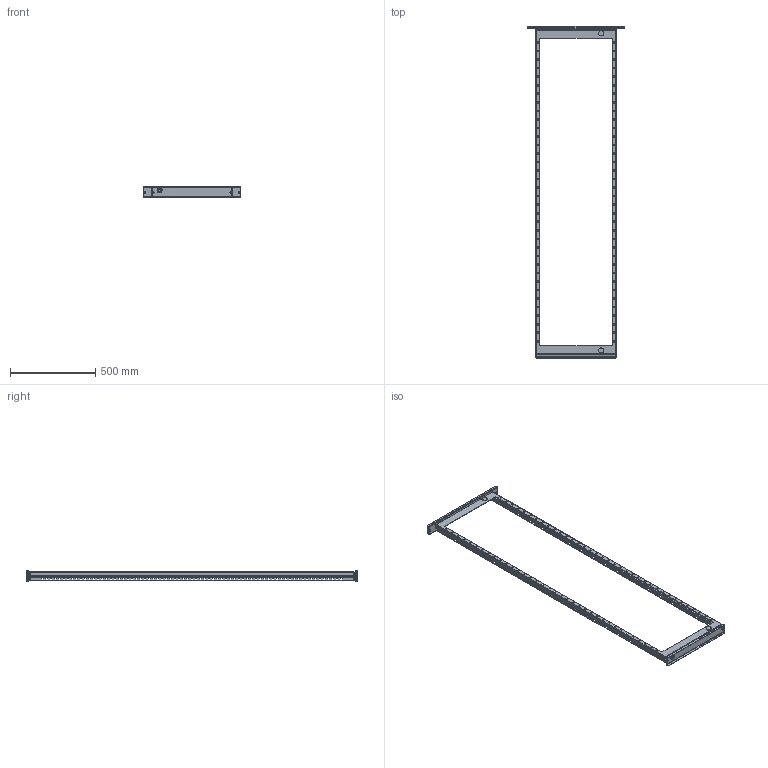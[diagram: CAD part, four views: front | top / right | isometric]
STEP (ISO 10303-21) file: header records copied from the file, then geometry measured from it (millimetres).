
FILE_DESCRIPTION (( 'STEP AP203' ), '1' );
FILE_NAME ('MC 200.60 R Ðàìà ìîäóëüíàÿ ïîâîðîòíàÿ.STEP', '2013-01-10T15:13:35', ( 'System' ), ( '' ), 'SwSTEP 2.0', 'SolidWorks 2012', '' );
FILE_SCHEMA (( 'CONFIG_CONTROL_DESIGN' ));
Length unit declared in the file: millimetre
Products named in the file (4): MC 60 R 00.01 Áàëêà âåðõíÿÿ_MC 60 R; MC 180.60 R Ðàìà ìîäóëüíàÿ_MC 200.60 R; MC 60 R 00.001 Áàëêà íèæíÿÿ_MC 60 R; MC 200.60 R Ðàìà ìîäóëüíàÿ ïîâîðîòíàÿ
Assembly tree (3 placements, depth 2):
  MC 200.60 R Ðàìà ìîäóëüíàÿ ïîâîðîòíàÿ
    MC 180.60 R Ðàìà ìîäóëüíàÿ_MC 200.60 R
    MC 60 R 00.01 Áàëêà âåðõíÿÿ_MC 60 R
    MC 60 R 00.001 Áàëêà íèæíÿÿ_MC 60 R
Bounding box: 571.5 x 1944.7 x 60 mm (x, y, z)
Volume: 997881.8 mm3; surface area: 1006604.6 mm2
Topology: 3 solids, 3 shells, 1048 faces, 3014 edges, 1948 vertices
Faces by surface type: plane 907, cylinder 97, sphere 32, torus 8, cone 4
Entity records: 34706 total; most frequent: CARTESIAN_POINT 6016, ORIENTED_EDGE 5964, DIRECTION 5286, EDGE_CURVE 2982, VECTOR 2778, LINE 2778, VERTEX_POINT 1948, EDGE_LOOP 1498
